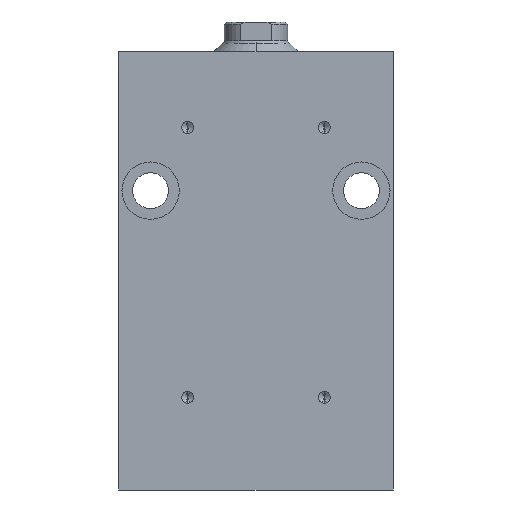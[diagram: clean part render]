
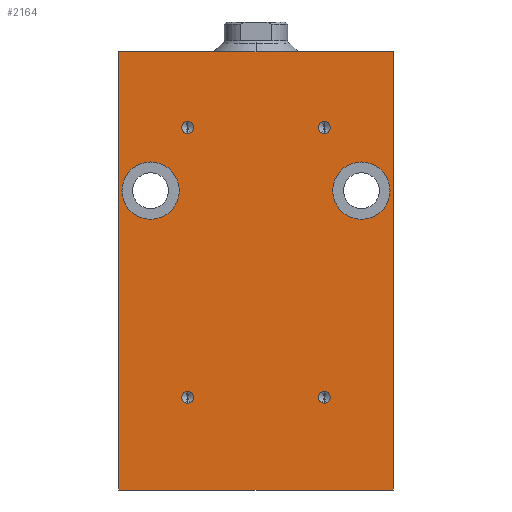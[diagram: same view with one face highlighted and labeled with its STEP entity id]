
A CAD part, left-side view. The second image highlights one B-rep face of the part: STEP entity #2164.
In plain terms, the highlighted planar face has unit normal (-1, 0, 0).
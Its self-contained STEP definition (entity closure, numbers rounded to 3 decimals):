
#57 = VERTEX_POINT ( 'NONE', #1662 ) ;
#72 = ORIENTED_EDGE ( 'NONE', *, *, #1853, .F. ) ;
#112 = CIRCLE ( 'NONE', #4262, 1.425 ) ;
#210 = EDGE_LOOP ( 'NONE', ( #2240, #671 ) ) ;
#215 = ORIENTED_EDGE ( 'NONE', *, *, #3799, .F. ) ;
#299 = EDGE_CURVE ( 'NONE', #3871, #4692, #3310, .T. ) ;
#300 = CARTESIAN_POINT ( 'NONE',  ( -22.5, 16.2, -25. ) ) ;
#376 = CIRCLE ( 'NONE', #456, 1.425 ) ;
#384 = DIRECTION ( 'NONE',  ( -1., 0., 0. ) ) ;
#389 = DIRECTION ( 'NONE',  ( -1., 0., 0. ) ) ;
#407 = CARTESIAN_POINT ( 'NONE',  ( -22.5, 32.5, -111. ) ) ;
#456 = AXIS2_PLACEMENT_3D ( 'NONE', #4145, #3806, #1122 ) ;
#523 = EDGE_CURVE ( 'NONE', #1686, #3321, #1190, .T. ) ;
#555 = EDGE_CURVE ( 'NONE', #3621, #1633, #3381, .T. ) ;
#613 = VERTEX_POINT ( 'NONE', #3089 ) ;
#666 = AXIS2_PLACEMENT_3D ( 'NONE', #1216, #1618, #4180 ) ;
#671 = ORIENTED_EDGE ( 'NONE', *, *, #947, .F. ) ;
#673 = FACE_BOUND ( 'NONE', #1751, .T. ) ;
#677 = DIRECTION ( 'NONE',  ( 0., 0., -1. ) ) ;
#727 = CARTESIAN_POINT ( 'NONE',  ( -22.5, 32.5, -111. ) ) ;
#767 = VECTOR ( 'NONE', #3470, 1000. ) ;
#768 = VERTEX_POINT ( 'NONE', #407 ) ;
#812 = EDGE_CURVE ( 'NONE', #4719, #4692, #3464, .T. ) ;
#860 = EDGE_LOOP ( 'NONE', ( #1810, #3046 ) ) ;
#861 = CARTESIAN_POINT ( 'NONE',  ( -22.5, -16.2, -89. ) ) ;
#947 = EDGE_CURVE ( 'NONE', #3321, #1686, #1628, .T. ) ;
#978 = VERTEX_POINT ( 'NONE', #2895 ) ;
#990 = DIRECTION ( 'NONE',  ( 0., 0., 1. ) ) ;
#991 = CIRCLE ( 'NONE', #2811, 1.425 ) ;
#1036 = FACE_BOUND ( 'NONE', #4078, .T. ) ;
#1052 = EDGE_CURVE ( 'NONE', #613, #978, #2150, .T. ) ;
#1053 = CIRCLE ( 'NONE', #3955, 6.8 ) ;
#1064 = AXIS2_PLACEMENT_3D ( 'NONE', #4710, #1787, #990 ) ;
#1110 = ORIENTED_EDGE ( 'NONE', *, *, #4821, .F. ) ;
#1120 = EDGE_CURVE ( 'NONE', #978, #613, #1053, .T. ) ;
#1122 = DIRECTION ( 'NONE',  ( 0., 0., 1. ) ) ;
#1131 = CARTESIAN_POINT ( 'NONE',  ( -22.5, 16.2, -25. ) ) ;
#1170 = LINE ( 'NONE', #3726, #3395 ) ;
#1190 = CIRCLE ( 'NONE', #2366, 6.8 ) ;
#1216 = CARTESIAN_POINT ( 'NONE',  ( -22.5, -16.2, -25. ) ) ;
#1252 = EDGE_CURVE ( 'NONE', #2130, #3964, #2797, .T. ) ;
#1338 = DIRECTION ( 'NONE',  ( -1., 0., 0. ) ) ;
#1362 = EDGE_CURVE ( 'NONE', #1633, #3621, #3656, .T. ) ;
#1442 = DIRECTION ( 'NONE',  ( 0., 0., 1. ) ) ;
#1458 = CARTESIAN_POINT ( 'NONE',  ( -22.5, -32.5, -7. ) ) ;
#1598 = CARTESIAN_POINT ( 'NONE',  ( -22.5, 32.5, -7. ) ) ;
#1618 = DIRECTION ( 'NONE',  ( -1., 0., 0. ) ) ;
#1628 = CIRCLE ( 'NONE', #4598, 6.8 ) ;
#1633 = VERTEX_POINT ( 'NONE', #3972 ) ;
#1662 = CARTESIAN_POINT ( 'NONE',  ( -22.5, 16.2, -26.425 ) ) ;
#1686 = VERTEX_POINT ( 'NONE', #2461 ) ;
#1751 = EDGE_LOOP ( 'NONE', ( #1110, #215 ) ) ;
#1752 = EDGE_CURVE ( 'NONE', #2841, #4125, #3444, .T. ) ;
#1787 = DIRECTION ( 'NONE',  ( -1., 0., 0. ) ) ;
#1810 = ORIENTED_EDGE ( 'NONE', *, *, #1752, .F. ) ;
#1812 = EDGE_CURVE ( 'NONE', #4125, #2841, #376, .T. ) ;
#1842 = CARTESIAN_POINT ( 'NONE',  ( -22.5, 32.5, -111. ) ) ;
#1853 = EDGE_CURVE ( 'NONE', #768, #4719, #3005, .T. ) ;
#1889 = ORIENTED_EDGE ( 'NONE', *, *, #1252, .F. ) ;
#1976 = ORIENTED_EDGE ( 'NONE', *, *, #1120, .F. ) ;
#1978 = CARTESIAN_POINT ( 'NONE',  ( -22.5, 16.2, -89. ) ) ;
#2024 = DIRECTION ( 'NONE',  ( 0., 0., 1. ) ) ;
#2130 = VERTEX_POINT ( 'NONE', #4378 ) ;
#2147 = DIRECTION ( 'NONE',  ( -1., 0., 0. ) ) ;
#2150 = CIRCLE ( 'NONE', #3188, 6.8 ) ;
#2164 = ADVANCED_FACE ( 'NONE', ( #673, #3025, #2255, #2199, #1036, #2173, #2943 ), #2599, .T. ) ;
#2173 = FACE_BOUND ( 'NONE', #210, .T. ) ;
#2199 = FACE_BOUND ( 'NONE', #860, .T. ) ;
#2240 = ORIENTED_EDGE ( 'NONE', *, *, #523, .F. ) ;
#2255 = FACE_BOUND ( 'NONE', #3420, .T. ) ;
#2278 = DIRECTION ( 'NONE',  ( 0., -1., 0. ) ) ;
#2350 = EDGE_CURVE ( 'NONE', #768, #3871, #1170, .T. ) ;
#2366 = AXIS2_PLACEMENT_3D ( 'NONE', #3115, #4601, #3560 ) ;
#2388 = DIRECTION ( 'NONE',  ( -1., 0., 0. ) ) ;
#2457 = EDGE_LOOP ( 'NONE', ( #2534, #72, #4810, #2969 ) ) ;
#2461 = CARTESIAN_POINT ( 'NONE',  ( -22.5, 25., -33.2 ) ) ;
#2534 = ORIENTED_EDGE ( 'NONE', *, *, #812, .F. ) ;
#2599 = PLANE ( 'NONE',  #3936 ) ;
#2653 = CARTESIAN_POINT ( 'NONE',  ( -22.5, -32.5, -111. ) ) ;
#2683 = AXIS2_PLACEMENT_3D ( 'NONE', #861, #1338, #2691 ) ;
#2691 = DIRECTION ( 'NONE',  ( 0., 0., 1. ) ) ;
#2797 = CIRCLE ( 'NONE', #666, 1.425 ) ;
#2811 = AXIS2_PLACEMENT_3D ( 'NONE', #4280, #3915, #3571 ) ;
#2841 = VERTEX_POINT ( 'NONE', #4252 ) ;
#2895 = CARTESIAN_POINT ( 'NONE',  ( -22.5, -25., -33.2 ) ) ;
#2933 = CARTESIAN_POINT ( 'NONE',  ( -22.5, 32.5, -7. ) ) ;
#2937 = CARTESIAN_POINT ( 'NONE',  ( -22.5, -25., -40. ) ) ;
#2943 = FACE_OUTER_BOUND ( 'NONE', #2457, .T. ) ;
#2949 = ORIENTED_EDGE ( 'NONE', *, *, #555, .F. ) ;
#2958 = DIRECTION ( 'NONE',  ( 0., 0., 1. ) ) ;
#2969 = ORIENTED_EDGE ( 'NONE', *, *, #299, .T. ) ;
#3005 = LINE ( 'NONE', #727, #767 ) ;
#3007 = DIRECTION ( 'NONE',  ( 0., 0., -1. ) ) ;
#3025 = FACE_BOUND ( 'NONE', #3098, .T. ) ;
#3046 = ORIENTED_EDGE ( 'NONE', *, *, #1812, .F. ) ;
#3089 = CARTESIAN_POINT ( 'NONE',  ( -22.5, -25., -46.8 ) ) ;
#3098 = EDGE_LOOP ( 'NONE', ( #1889, #3625 ) ) ;
#3115 = CARTESIAN_POINT ( 'NONE',  ( -22.5, 25., -40. ) ) ;
#3169 = CARTESIAN_POINT ( 'NONE',  ( -22.5, 16.2, -90.425 ) ) ;
#3188 = AXIS2_PLACEMENT_3D ( 'NONE', #3338, #389, #3007 ) ;
#3280 = DIRECTION ( 'NONE',  ( -1., 0., 0. ) ) ;
#3310 = LINE ( 'NONE', #4811, #3447 ) ;
#3321 = VERTEX_POINT ( 'NONE', #4492 ) ;
#3332 = DIRECTION ( 'NONE',  ( 0., 0., 1. ) ) ;
#3338 = CARTESIAN_POINT ( 'NONE',  ( -22.5, -25., -40. ) ) ;
#3360 = DIRECTION ( 'NONE',  ( 0., 0., 1. ) ) ;
#3381 = CIRCLE ( 'NONE', #2683, 1.425 ) ;
#3395 = VECTOR ( 'NONE', #2278, 1000. ) ;
#3420 = EDGE_LOOP ( 'NONE', ( #2949, #3720 ) ) ;
#3435 = DIRECTION ( 'NONE',  ( 0., -1., 0. ) ) ;
#3444 = CIRCLE ( 'NONE', #4769, 1.425 ) ;
#3447 = VECTOR ( 'NONE', #1442, 1000. ) ;
#3464 = LINE ( 'NONE', #1598, #4645 ) ;
#3470 = DIRECTION ( 'NONE',  ( 0., 0., 1. ) ) ;
#3560 = DIRECTION ( 'NONE',  ( 0., 0., -1. ) ) ;
#3571 = DIRECTION ( 'NONE',  ( 0., 0., 1. ) ) ;
#3621 = VERTEX_POINT ( 'NONE', #3923 ) ;
#3625 = ORIENTED_EDGE ( 'NONE', *, *, #4524, .F. ) ;
#3656 = CIRCLE ( 'NONE', #1064, 1.425 ) ;
#3720 = ORIENTED_EDGE ( 'NONE', *, *, #1362, .F. ) ;
#3726 = CARTESIAN_POINT ( 'NONE',  ( -22.5, 32.5, -111. ) ) ;
#3745 = DIRECTION ( 'NONE',  ( -1., 0., 0. ) ) ;
#3799 = EDGE_CURVE ( 'NONE', #57, #4576, #112, .T. ) ;
#3806 = DIRECTION ( 'NONE',  ( -1., 0., 0. ) ) ;
#3871 = VERTEX_POINT ( 'NONE', #2653 ) ;
#3872 = CARTESIAN_POINT ( 'NONE',  ( -22.5, 16.2, -23.575 ) ) ;
#3915 = DIRECTION ( 'NONE',  ( -1., 0., 0. ) ) ;
#3923 = CARTESIAN_POINT ( 'NONE',  ( -22.5, -16.2, -87.575 ) ) ;
#3928 = CIRCLE ( 'NONE', #4398, 1.425 ) ;
#3936 = AXIS2_PLACEMENT_3D ( 'NONE', #1842, #384, #3360 ) ;
#3955 = AXIS2_PLACEMENT_3D ( 'NONE', #2937, #4047, #4075 ) ;
#3964 = VERTEX_POINT ( 'NONE', #4190 ) ;
#3972 = CARTESIAN_POINT ( 'NONE',  ( -22.5, -16.2, -90.425 ) ) ;
#4047 = DIRECTION ( 'NONE',  ( -1., 0., 0. ) ) ;
#4075 = DIRECTION ( 'NONE',  ( 0., 0., -1. ) ) ;
#4078 = EDGE_LOOP ( 'NONE', ( #1976, #4197 ) ) ;
#4125 = VERTEX_POINT ( 'NONE', #3169 ) ;
#4145 = CARTESIAN_POINT ( 'NONE',  ( -22.5, 16.2, -89. ) ) ;
#4180 = DIRECTION ( 'NONE',  ( 0., 0., 1. ) ) ;
#4190 = CARTESIAN_POINT ( 'NONE',  ( -22.5, -16.2, -26.425 ) ) ;
#4197 = ORIENTED_EDGE ( 'NONE', *, *, #1052, .F. ) ;
#4252 = CARTESIAN_POINT ( 'NONE',  ( -22.5, 16.2, -87.575 ) ) ;
#4262 = AXIS2_PLACEMENT_3D ( 'NONE', #300, #3280, #3332 ) ;
#4280 = CARTESIAN_POINT ( 'NONE',  ( -22.5, -16.2, -25. ) ) ;
#4336 = CARTESIAN_POINT ( 'NONE',  ( -22.5, 25., -40. ) ) ;
#4378 = CARTESIAN_POINT ( 'NONE',  ( -22.5, -16.2, -23.575 ) ) ;
#4398 = AXIS2_PLACEMENT_3D ( 'NONE', #1131, #3745, #2958 ) ;
#4492 = CARTESIAN_POINT ( 'NONE',  ( -22.5, 25., -46.8 ) ) ;
#4524 = EDGE_CURVE ( 'NONE', #3964, #2130, #991, .T. ) ;
#4576 = VERTEX_POINT ( 'NONE', #3872 ) ;
#4598 = AXIS2_PLACEMENT_3D ( 'NONE', #4336, #2147, #677 ) ;
#4601 = DIRECTION ( 'NONE',  ( -1., 0., 0. ) ) ;
#4645 = VECTOR ( 'NONE', #3435, 1000. ) ;
#4692 = VERTEX_POINT ( 'NONE', #1458 ) ;
#4710 = CARTESIAN_POINT ( 'NONE',  ( -22.5, -16.2, -89. ) ) ;
#4719 = VERTEX_POINT ( 'NONE', #2933 ) ;
#4769 = AXIS2_PLACEMENT_3D ( 'NONE', #1978, #2388, #2024 ) ;
#4810 = ORIENTED_EDGE ( 'NONE', *, *, #2350, .T. ) ;
#4811 = CARTESIAN_POINT ( 'NONE',  ( -22.5, -32.5, -111. ) ) ;
#4821 = EDGE_CURVE ( 'NONE', #4576, #57, #3928, .T. ) ;
